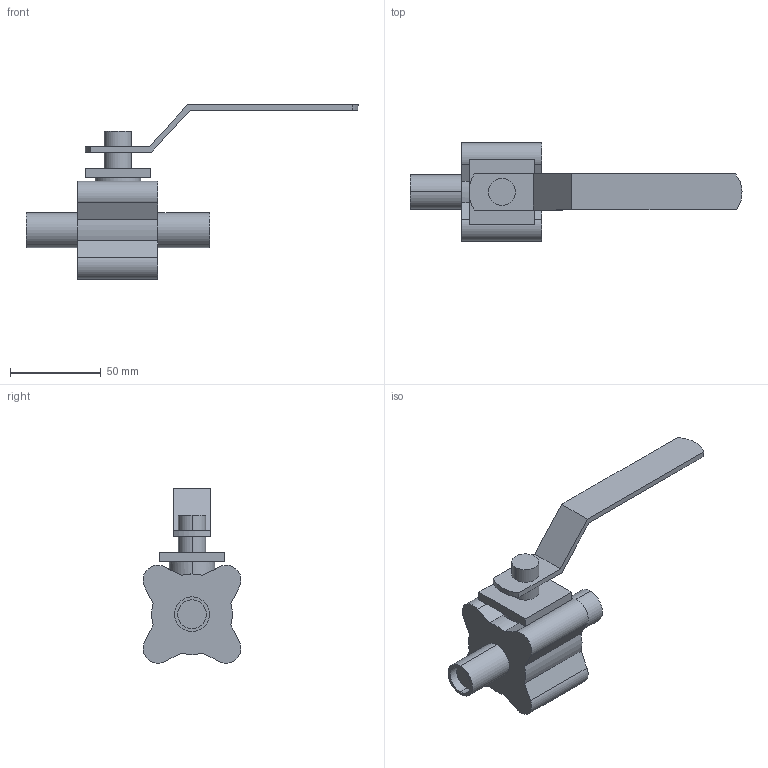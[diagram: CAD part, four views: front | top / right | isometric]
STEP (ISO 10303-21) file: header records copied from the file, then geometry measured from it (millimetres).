
FILE_DESCRIPTION(('Creo Elements/Direct Modeling STEP Export'),'2;1');
FILE_NAME('BLV1-0.75T-H-12S.stp','2019-05-10T 7:51:59',(''),(''),'Creo Elements/Direct Modeling STEP processor for AP214 (Solid Model)','Creo Elements/Direct Modeling 19.0F 14-Feb-2017 (C) Parametric Technology GmbH','');
FILE_SCHEMA(('AUTOMOTIVE_DESIGN { 1 0 10303 214 1 1 1 1 }'));
Length unit declared in the file: millimetre
Products named in the file (2): BLV1-0.75T-H-12S
Assembly tree (1 placements, depth 2):
  BLV1-0.75T-H-12S
    BLV1-0.75T-H-12S
Bounding box: 182.52 x 53.87 x 95.93 mm (x, y, z)
Volume: 140718.8 mm3; surface area: 28589.9 mm2
Topology: 1 solids, 1 shells, 54 faces, 132 edges, 88 vertices
Faces by surface type: plane 29, cylinder 25
Entity records: 1611 total; most frequent: CARTESIAN_POINT 308, ORIENTED_EDGE 264, DIRECTION 258, EDGE_CURVE 132, AXIS2_PLACEMENT_3D 90, VERTEX_POINT 88, VECTOR 78, LINE 78
